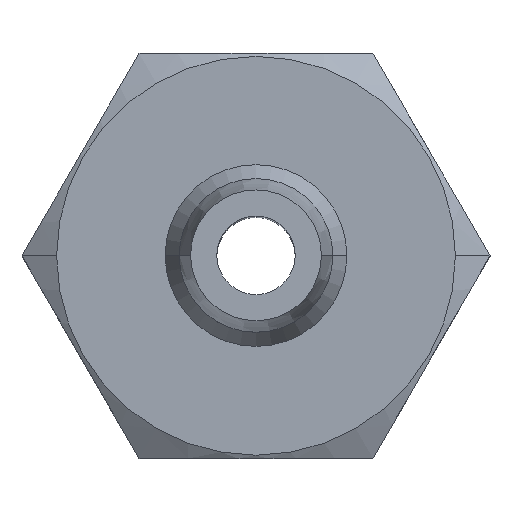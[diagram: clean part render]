
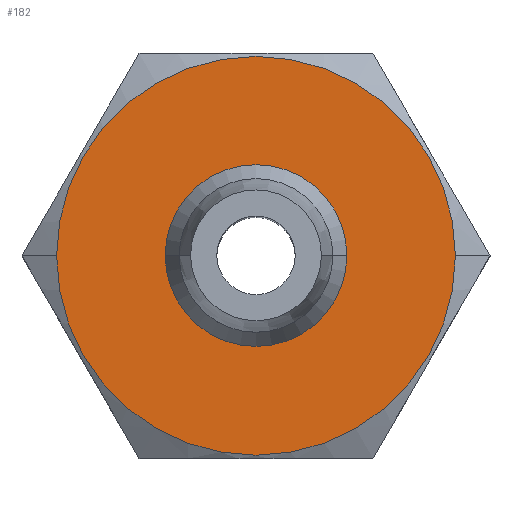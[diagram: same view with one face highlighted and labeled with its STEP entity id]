
A CAD part, top view. The second image highlights one B-rep face of the part: STEP entity #182.
In plain terms, the highlighted planar face has unit normal (0, 0, 1).
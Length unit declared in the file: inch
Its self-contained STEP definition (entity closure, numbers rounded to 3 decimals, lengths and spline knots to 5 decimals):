
#2 = DIRECTION ( 'NONE',  ( 1., 0., 0. ) ) ;
#11 = CIRCLE ( 'NONE', #1288, 0.1525 ) ;
#15 = DIRECTION ( 'NONE',  ( -1., 0., 0. ) ) ;
#70 = ORIENTED_EDGE ( 'NONE', *, *, #1244, .F. ) ;
#76 = CIRCLE ( 'NONE', #1196, 0.1525 ) ;
#138 = CARTESIAN_POINT ( 'NONE',  ( -0.05875, 0., -0.2195 ) ) ;
#182 = ADVANCED_FACE ( 'NONE', ( #566, #1402 ), #1505, .F. ) ;
#214 = CARTESIAN_POINT ( 'NONE',  ( -0.1525, 0., -0.2195 ) ) ;
#260 = DIRECTION ( 'NONE',  ( 0., 0., 1. ) ) ;
#294 = EDGE_CURVE ( 'NONE', #1530, #720, #76, .T. ) ;
#374 = EDGE_CURVE ( 'NONE', #720, #1530, #11, .T. ) ;
#469 = CARTESIAN_POINT ( 'NONE',  ( 0., 0., -0.2195 ) ) ;
#479 = CARTESIAN_POINT ( 'NONE',  ( 0.05875, 0., -0.2195 ) ) ;
#519 = DIRECTION ( 'NONE',  ( -1., 0., 0. ) ) ;
#566 = FACE_BOUND ( 'NONE', #1605, .T. ) ;
#568 = AXIS2_PLACEMENT_3D ( 'NONE', #469, #597, #1594 ) ;
#573 = ORIENTED_EDGE ( 'NONE', *, *, #684, .F. ) ;
#597 = DIRECTION ( 'NONE',  ( 0., 0., 1. ) ) ;
#684 = EDGE_CURVE ( 'NONE', #895, #740, #1160, .T. ) ;
#707 = ORIENTED_EDGE ( 'NONE', *, *, #374, .F. ) ;
#720 = VERTEX_POINT ( 'NONE', #214 ) ;
#740 = VERTEX_POINT ( 'NONE', #479 ) ;
#747 = DIRECTION ( 'NONE',  ( -1., 0., 0. ) ) ;
#758 = CARTESIAN_POINT ( 'NONE',  ( 0., 0., -0.2195 ) ) ;
#762 = DIRECTION ( 'NONE',  ( 0., 0., -1. ) ) ;
#792 = CARTESIAN_POINT ( 'NONE',  ( 0., 0., -0.2195 ) ) ;
#882 = AXIS2_PLACEMENT_3D ( 'NONE', #1512, #762, #747 ) ;
#895 = VERTEX_POINT ( 'NONE', #138 ) ;
#1137 = DIRECTION ( 'NONE',  ( 0., 0., -1. ) ) ;
#1160 = CIRCLE ( 'NONE', #568, 0.05875 ) ;
#1164 = AXIS2_PLACEMENT_3D ( 'NONE', #758, #260, #2 ) ;
#1174 = ORIENTED_EDGE ( 'NONE', *, *, #294, .F. ) ;
#1196 = AXIS2_PLACEMENT_3D ( 'NONE', #1407, #1137, #15 ) ;
#1244 = EDGE_CURVE ( 'NONE', #740, #895, #1535, .T. ) ;
#1264 = DIRECTION ( 'NONE',  ( 0., 0., -1. ) ) ;
#1288 = AXIS2_PLACEMENT_3D ( 'NONE', #792, #1264, #519 ) ;
#1402 = FACE_OUTER_BOUND ( 'NONE', #1630, .T. ) ;
#1407 = CARTESIAN_POINT ( 'NONE',  ( 0., 0., -0.2195 ) ) ;
#1505 = PLANE ( 'NONE',  #882 ) ;
#1512 = CARTESIAN_POINT ( 'NONE',  ( 0., 0.05875, -0.2195 ) ) ;
#1530 = VERTEX_POINT ( 'NONE', #1550 ) ;
#1535 = CIRCLE ( 'NONE', #1164, 0.05875 ) ;
#1550 = CARTESIAN_POINT ( 'NONE',  ( 0.1525, 0., -0.2195 ) ) ;
#1594 = DIRECTION ( 'NONE',  ( 1., 0., 0. ) ) ;
#1605 = EDGE_LOOP ( 'NONE', ( #70, #573 ) ) ;
#1630 = EDGE_LOOP ( 'NONE', ( #707, #1174 ) ) ;
